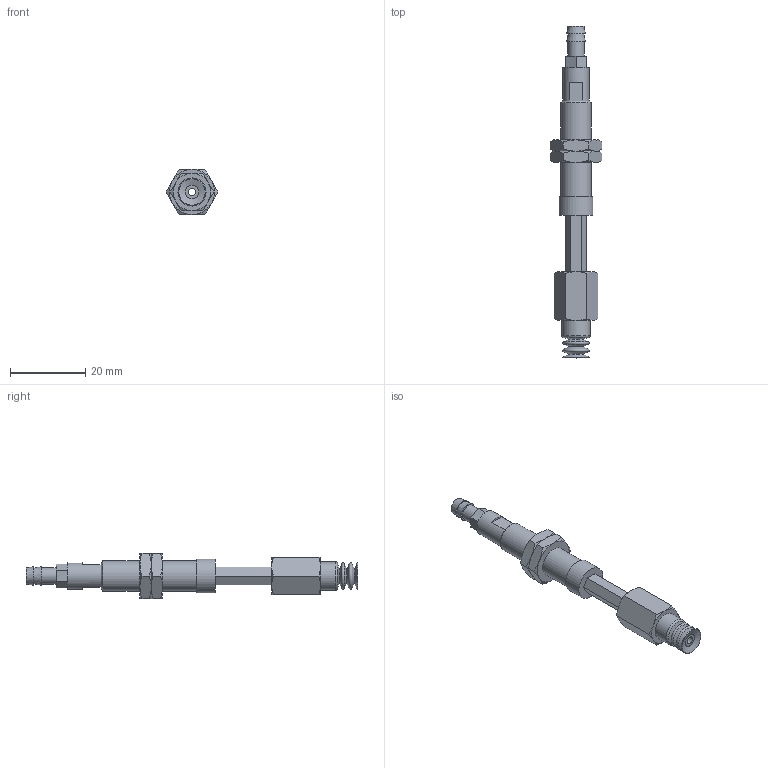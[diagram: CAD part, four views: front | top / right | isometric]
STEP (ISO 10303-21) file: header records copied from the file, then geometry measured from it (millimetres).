
FILE_DESCRIPTION(('STEP AP203'),'1');
FILE_NAME('-T.stp','2025-08-27T01:31:54',(' '),(' '),'Spatial InterOp 3D',' ',' ');
FILE_SCHEMA(('CONFIG_CONTROL_DESIGN'));
Length unit declared in the file: millimetre
Products named in the file (7): BNABPCTH-7-15-※-T; ADAPTER; NAPATH-10A-15--M; Nut napc_h-7-15; NAPCTH-7-15-FBODY; BPCG-7-※; T
Assembly tree (7 placements, depth 2):
  BNABPCTH-7-15-※-T
    ADAPTER
    NAPATH-10A-15--M
    Nut napc_h-7-15  x2
    NAPCTH-7-15-FBODY
    BPCG-7-※
    T
Bounding box: 13.86 x 88.5 x 12 mm (x, y, z)
Volume: 4059.3 mm3; surface area: 5152.2 mm2
Topology: 7 solids, 7 shells, 148 faces, 309 edges, 186 vertices
Faces by surface type: plane 65, cone 53, cylinder 17, torus 13
Full cylindrical faces by diameter (mm): 2 x3, 3 x1, 4 x2, 4.134 x1, 4.3 x1, 5 x1, 6 x2, 7 x1, 7.188 x2, 7.5 x1, 8 x1, 9 x1
Entity records: 3602 total; most frequent: CARTESIAN_POINT 789, DIRECTION 520, ORIENTED_EDGE 426, AXIS2_PLACEMENT_3D 222, EDGE_CURVE 213, EDGE_LOOP 192, VERTEX_POINT 155, FACE_OUTER_BOUND 154
